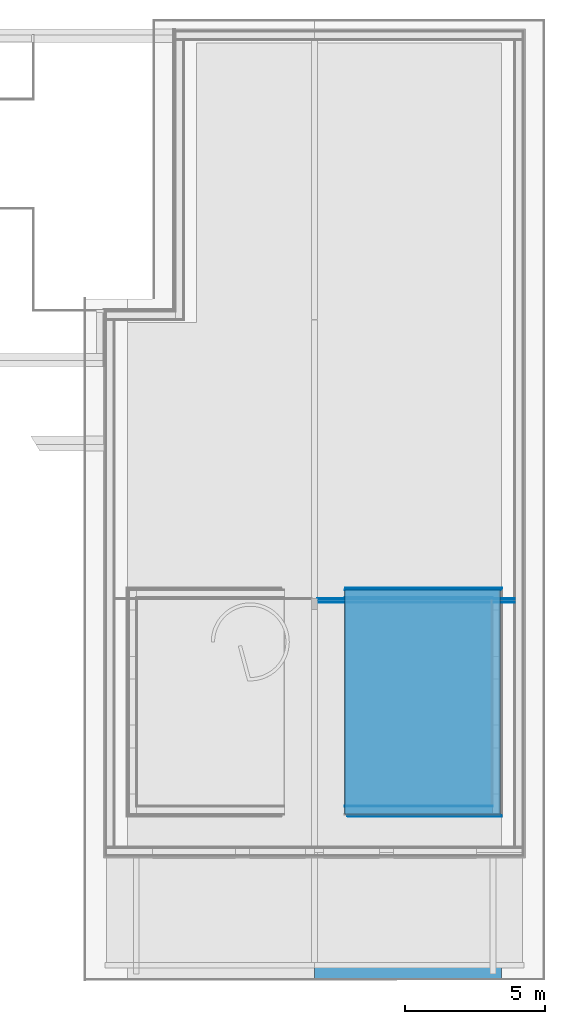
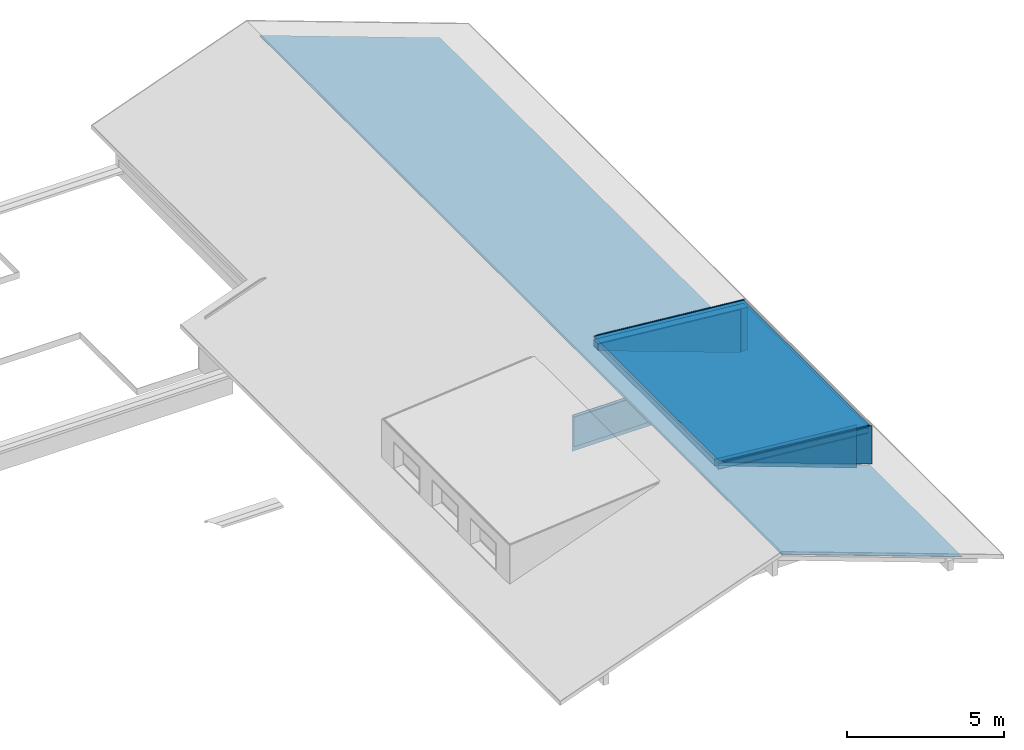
# One storey, part 8 of 12: 27 building element parts, 8 elements without a shape of their own.
"""IFC4 building model written with IfcOpenShell, lengths in millimetres."""

from ifc_helpers import new_model, entity, si_unit, converted_unit, derived_unit, direction, frame, origin_with_axes, place, context, subcontext, project, spatial, polygons, material, type_object, element, aggregate, save


model = new_model("IFC4")

# Units and contexts
model_context = context("Model", 3, precision=0.01, world=origin_with_axes(), true_north=direction((0.0, 1.0)))
body_context = subcontext(model_context, "Body", "Model", "MODEL_VIEW")
ifc_project = project(units=[si_unit("LENGTHUNIT", "METRE", prefix="MILLI"), si_unit("AREAUNIT", "SQUARE_METRE"), si_unit("VOLUMEUNIT", "CUBIC_METRE"), converted_unit("PLANEANGLEUNIT", "DEGREE", entity("IfcPlaneAngleMeasure", 0.0174532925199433), si_unit("PLANEANGLEUNIT", "RADIAN"), dimensions=[0, 0, 0, 0, 0, 0, 0]), converted_unit("TIMEUNIT", "Year", entity("IfcTimeMeasure", 31557600.0), si_unit("TIMEUNIT", "SECOND"), dimensions=[0, 0, 1, 0, 0, 0, 0]), si_unit("MASSUNIT", "GRAM", prefix="KILO"), si_unit("THERMODYNAMICTEMPERATUREUNIT", "DEGREE_CELSIUS"), si_unit("LUMINOUSINTENSITYUNIT", "LUMEN"), si_unit("ENERGYUNIT", "JOULE", prefix="MEGA"), derived_unit("THERMALCONDUCTANCEUNIT", [(si_unit("POWERUNIT", "WATT"), 1), (si_unit("LENGTHUNIT", "METRE"), -1), (si_unit("THERMODYNAMICTEMPERATUREUNIT", "KELVIN"), -1)]), derived_unit("SPECIFICHEATCAPACITYUNIT", [(si_unit("ENERGYUNIT", "JOULE"), 1), (si_unit("MASSUNIT", "GRAM", prefix="KILO"), -1), (si_unit("THERMODYNAMICTEMPERATUREUNIT", "KELVIN"), -1)]), derived_unit("MASSDENSITYUNIT", [(si_unit("MASSUNIT", "GRAM", prefix="KILO"), 1), (si_unit("VOLUMEUNIT", "CUBIC_METRE"), -1)])], contexts=[model_context])

# Site, building, storey
site_placement = place(None, origin_with_axes())
site = spatial("IfcSite", under=ifc_project, at=site_placement, Name="Gelände", CompositionType="ELEMENT")
building_placement = place(site_placement, origin_with_axes())
building = spatial("IfcBuilding", under=site, at=building_placement, Name="Gebäude", CompositionType="ELEMENT")
storey_placement = place(building_placement, frame((0.0, 0.0, 11600.0), z_axis=(0.0, 0.0, 1.0), x_axis=(1.0, 0.0, 0.0)))
storey = spatial("IfcBuildingStorey", under=building, at=storey_placement, Name="Dachaufsicht", CompositionType="ELEMENT", Elevation=11600.0)

# Wall, building element parts
wall_type_1 = type_object("IfcWallType", Name="Aussenwand Typ 01 318", PredefinedType="NOTDEFINED")
wall_1_placement = place(storey_placement, frame((32049.99744408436, 9989.670112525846, 1895.271674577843), z_axis=(0.0, 0.0, 1.0), x_axis=(-1.0, 0.0, 0.0)))
wall_1 = element("IfcWall", 1, at=wall_1_placement, inside=storey, type_object=wall_type_1, Name="Wand-014", PredefinedType="NOTDEFINED")
ifc_material_1 = material(Name="Ständer Konstruktion gedämmt")
building_element_part_1_placement = place(wall_1_placement, origin_with_axes())
building_element_part_1 = element("IfcBuildingElementPart", 2, at=building_element_part_1_placement, material=ifc_material_1, Name="Ständer Konstruktion gedämmt", PredefinedType="NOTDEFINED", context=body_context, shape_type="Tessellation", body=[
    polygons([(5527.237092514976, -278.0000000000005, 2179.750882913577), (5527.237092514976, -278.0000000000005, 2177.40811511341), (277.9999999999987, -278.0000000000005, 1683.979828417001), (277.9999999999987, -278.0000000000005, 0.0), (5549.900825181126, -278.0000000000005, 1918.81497836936), (5549.900825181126, -278.0000000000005, 2179.750882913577), (5527.237092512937, -18.00000000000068, 2179.750882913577), (5527.237092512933, -18.00000000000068, 2177.408115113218), (277.9999999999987, -18.00000000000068, 1683.979828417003), (277.9999999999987, -18.00000000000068, 0.0), (5549.900825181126, -18.00000000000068, 1918.81497836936), (5549.900825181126, -18.00000000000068, 2179.750882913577)], [[[1, 2, 3, 4, 5, 6]], [[2, 1, 7, 8]], [[9, 3, 2, 8]], [[3, 9, 10, 4]], [[5, 4, 10, 11]], [[12, 6, 5, 11]], [[7, 1, 6, 12]], [[8, 7, 12, 11, 10, 9]]], closed=True),
])
ifc_material_2 = material(Name="Gipsfaserplatte GFP")
building_element_part_2_placement = place(wall_1_placement, origin_with_axes())
building_element_part_2 = element("IfcBuildingElementPart", 3, at=building_element_part_2_placement, material=ifc_material_2, Name="Gipsfaserplatte GFP", PredefinedType="NOTDEFINED", context=body_context, shape_type="Tessellation", body=[
    polygons([(5527.237092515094, -293.000000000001, 2179.750882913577), (5527.237092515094, -292.9999999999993, 2177.408115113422), (277.9999999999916, -292.9999999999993, 1683.979828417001), (292.9999999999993, -292.9999999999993, 1683.979828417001), (292.9999999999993, -292.9999999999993, 5.45955351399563), (5549.900825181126, -293.000000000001, 1918.81497836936), (5549.900825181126, -293.000000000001, 2179.750882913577), (5527.237092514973, -278.0000000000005, 2179.750882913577), (5527.237092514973, -278.0000000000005, 2177.40811511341), (277.9999999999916, -278.0000000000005, 1683.979828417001), (292.9999999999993, -278.0000000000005, 1683.979828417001), (292.9999999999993, -278.0000000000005, 5.45955351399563), (5549.900825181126, -278.0000000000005, 1918.81497836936), (5549.900825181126, -278.0000000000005, 2179.750882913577)], [[[1, 2, 3, 4, 5, 6, 7]], [[2, 1, 8, 9]], [[10, 3, 2, 9]], [[3, 10, 11, 4]], [[4, 11, 12, 5]], [[6, 5, 12, 13]], [[14, 7, 6, 13]], [[8, 1, 7, 14]], [[9, 8, 14, 13, 12, 11, 10]]], closed=True),
])
building_element_part_3_placement = place(wall_1_placement, origin_with_axes())
building_element_part_3 = element("IfcBuildingElementPart", 4, at=building_element_part_3_placement, material=ifc_material_2, Name="Gipsfaserplatte GFP", PredefinedType="NOTDEFINED", context=body_context, shape_type="Tessellation", body=[
    polygons([(5527.237092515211, -307.9999999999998, 2179.750882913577), (5527.237092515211, -307.9999999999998, 2177.408115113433), (277.9999999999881, -307.9999999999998, 1683.979828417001), (307.9999999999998, -307.9999999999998, 1683.979828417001), (307.9999999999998, -307.9999999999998, 10.91910702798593), (5549.900825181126, -307.9999999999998, 1918.81497836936), (5549.900825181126, -307.9999999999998, 2179.750882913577), (5527.237092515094, -293.000000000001, 2179.750882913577), (5527.23709251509, -292.9999999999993, 2177.408115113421), (277.9999999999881, -292.9999999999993, 1683.979828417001), (307.9999999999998, -292.9999999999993, 1683.979828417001), (307.9999999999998, -292.9999999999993, 10.91910702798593), (5549.900825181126, -293.000000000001, 1918.81497836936), (5549.900825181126, -293.000000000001, 2179.750882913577)], [[[1, 2, 3, 4, 5, 6, 7]], [[2, 1, 8, 9]], [[10, 3, 2, 9]], [[3, 10, 11, 4]], [[4, 11, 12, 5]], [[6, 5, 12, 13]], [[14, 7, 6, 13]], [[8, 1, 7, 14]], [[9, 8, 14, 13, 12, 11, 10]]], closed=True),
])
ifc_material_3 = material(Name="Verputz Innen")
building_element_part_4_placement = place(wall_1_placement, origin_with_axes())
building_element_part_4 = element("IfcBuildingElementPart", 5, at=building_element_part_4_placement, material=ifc_material_3, Name="Verputz Innen", PredefinedType="NOTDEFINED", context=body_context, shape_type="Tessellation", body=[
    polygons([(5527.237092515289, -317.9999999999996, 2179.750882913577), (5527.237092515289, -317.9999999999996, 2177.408115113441), (278.0000000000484, -317.9999999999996, 1683.979828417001), (318.0000000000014, -317.9999999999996, 1683.979828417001), (318.0000000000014, -317.9999999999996, 14.55880937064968), (5549.900825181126, -317.9999999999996, 1918.81497836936), (5549.900825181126, -317.9999999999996, 2179.750882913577), (5527.237092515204, -307.9999999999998, 2179.750882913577), (5527.237092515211, -307.9999999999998, 2177.408115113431), (278.0000000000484, -307.9999999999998, 1683.979828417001), (318.0000000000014, -307.9999999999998, 1683.979828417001), (318.0000000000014, -307.9999999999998, 14.55880937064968), (5549.900825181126, -307.9999999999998, 1918.81497836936), (5549.900825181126, -307.9999999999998, 2179.750882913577)], [[[1, 2, 3, 4, 5, 6, 7]], [[2, 1, 8, 9]], [[10, 3, 2, 9]], [[3, 10, 11, 4]], [[4, 11, 12, 5]], [[6, 5, 12, 13]], [[14, 7, 6, 13]], [[8, 1, 7, 14]], [[9, 8, 14, 13, 12, 11, 10]]], closed=True),
])
aggregate(wall_1, [building_element_part_1, building_element_part_2, building_element_part_3, building_element_part_4])

# Covering, building element parts
covering_type = type_object("IfcCoveringType", Name="Dacheindeckung Typ 03 - Steildach 100", PredefinedType="NOTDEFINED")
covering_1_placement = place(storey_placement, frame((32031.99744402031, 12055.67011252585, 3554.811502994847), z_axis=(0.0, 0.0, 1.0), x_axis=(0.0, 1.0, 0.0)))
covering_1 = element("IfcCovering", 6, at=covering_1_placement, inside=storey, type_object=covering_type, Name="Dach-011", PredefinedType="NOTDEFINED")
ifc_material_4 = material(Name="Dachziegel grau")
building_element_part_5_placement = place(covering_1_placement, origin_with_axes())
building_element_part_5 = element("IfcBuildingElementPart", 7, at=building_element_part_5_placement, material=ifc_material_4, Name="Dachziegel grau", PredefinedType="NOTDEFINED", context=body_context, shape_type="Tessellation", body=[
    polygons([(5941.999999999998, -18.00000000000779, 98.74882835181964), (5941.999999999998, 5509.237092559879, 618.3091150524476), (-2066.000000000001, 5509.237092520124, 618.30911504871), (-2066.000000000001, -18.00000000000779, 98.74882835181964), (5942.000000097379, -18.00000002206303, 73.63862126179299), (5942.000000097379, 5509.237092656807, 593.1989079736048), (-2065.999999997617, 5509.23709262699, 593.1989079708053), (-2065.999999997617, -18.00000002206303, 73.63862126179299)], [[[1, 2, 3, 4]], [[1, 5, 6, 2]], [[2, 6, 7, 3]], [[3, 7, 8, 4]], [[4, 8, 5, 1]], [[5, 8, 7, 6]]], closed=True),
])
ifc_material_5 = material(Name="Aufdachdämmung")
building_element_part_6_placement = place(covering_1_placement, origin_with_axes())
building_element_part_6 = element("IfcBuildingElementPart", 8, at=building_element_part_6_placement, material=ifc_material_5, Name="Aufdachdämmung", PredefinedType="NOTDEFINED", context=body_context, shape_type="Tessellation", body=[
    polygons([(-2065.999999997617, -18.00000002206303, 73.63862126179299), (-2065.999999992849, -18.00000006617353, 23.41820708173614), (5942.000000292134, -18.00000006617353, 23.41820708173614), (5942.000000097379, -18.00000002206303, 73.63862126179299), (-2065.999999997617, 5509.23709262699, 593.1989079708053), (-2065.999999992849, 5509.237092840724, 542.9784938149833), (5942.000000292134, 5509.237092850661, 542.9784938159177), (5942.000000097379, 5509.237092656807, 593.1989079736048)], [[[1, 2, 3, 4]], [[5, 6, 2, 1]], [[3, 2, 6, 7]], [[4, 3, 7, 8]], [[4, 8, 5, 1]], [[8, 7, 6, 5]]], closed=True),
])
ifc_material_6 = material(Name="Lattenrost vertikal")
building_element_part_7_placement = place(covering_1_placement, origin_with_axes())
building_element_part_7 = element("IfcBuildingElementPart", 9, at=building_element_part_7_placement, material=ifc_material_6, Name="Lattenrost vertikal", PredefinedType="NOTDEFINED", context=body_context, shape_type="Tessellation", body=[
    polygons([(-2065.999999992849, -18.00000006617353, 23.41820708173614), (-2065.999999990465, -18.00000008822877, -1.691999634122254), (5942.000000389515, -18.00000008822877, -1.691999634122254), (5942.000000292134, -18.00000006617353, 23.41820708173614), (-2065.999999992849, 5509.237092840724, 542.9784938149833), (-2065.999999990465, 5509.23709294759, 517.8682871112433), (5942.000000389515, 5509.23709294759, 517.8682871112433), (5942.000000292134, 5509.237092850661, 542.978493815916)], [[[1, 2, 3, 4]], [[5, 6, 2, 1]], [[2, 6, 7, 3]], [[4, 3, 7, 8]], [[4, 8, 5, 1]], [[8, 7, 6, 5]]], closed=True),
])
aggregate(covering_1, [building_element_part_5, building_element_part_6, building_element_part_7])

# Wall, building element parts
wall_type_2 = type_object("IfcWallType", Name="Innenwand Typ 01 154", PredefinedType="NOTDEFINED")
wall_2_placement = place(storey_placement, frame((25528.99744442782, 17689.67011252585, 243.9998960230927), z_axis=(0.0, 0.0, 1.0), x_axis=(1.0, 0.0, 0.0)))
wall_2 = element("IfcWall", 10, at=wall_2_placement, inside=storey, type_object=wall_type_2, Name="Wand-014", PredefinedType="NOTDEFINED")
ifc_material_7 = material(Name="Dreischichtplatte DSP")
building_element_part_8_placement = place(wall_2_placement, origin_with_axes())
building_element_part_8 = element("IfcBuildingElementPart", 11, at=building_element_part_8_placement, material=ifc_material_7, Name="Dreischichtplatte DSP", PredefinedType="NOTDEFINED", context=body_context, shape_type="Tessellation", body=[
    polygons([(0.0, 0.0, 1404.411615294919), (0.0, -27.00000000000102, 1404.411615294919), (7020.999999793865, -27.00000000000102, 1404.411615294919), (7020.999999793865, 0.0, 1404.411615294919), (0.0, 0.0, 0.0), (0.0, -27.00000000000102, 0.0), (7020.999999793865, -27.00000000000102, 0.0), (7020.999999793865, 0.0, 0.0)], [[[1, 2, 3, 4]], [[5, 6, 2, 1]], [[2, 6, 7, 3]], [[8, 4, 3, 7]], [[5, 1, 4, 8]], [[6, 5, 8, 7]]], closed=True),
])
building_element_part_9_placement = place(wall_2_placement, origin_with_axes())
building_element_part_9 = element("IfcBuildingElementPart", 12, at=building_element_part_9_placement, material=ifc_material_1, Name="Ständer Konstruktion gedämmt", PredefinedType="NOTDEFINED", context=body_context, shape_type="Tessellation", body=[
    polygons([(7020.999999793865, -126.9999999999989, 1404.411615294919), (7020.999999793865, -126.9999999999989, 256.0000000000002), (7020.999999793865, -27.00000000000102, 256.0000000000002), (7020.999999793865, -27.00000000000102, 1404.411615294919), (0.0, -126.9999999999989, 1404.411615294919), (0.0, -126.9999999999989, 256.0000000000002), (0.0, -27.00000000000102, 256.0000000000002), (0.0, -27.00000000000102, 1404.411615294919)], [[[1, 2, 3, 4]], [[5, 6, 2, 1]], [[6, 7, 3, 2]], [[4, 3, 7, 8]], [[8, 5, 1, 4]], [[8, 7, 6, 5]]], closed=True),
])
building_element_part_10_placement = place(wall_2_placement, origin_with_axes())
building_element_part_10 = element("IfcBuildingElementPart", 13, at=building_element_part_10_placement, material=ifc_material_7, Name="Dreischichtplatte DSP", PredefinedType="NOTDEFINED", context=body_context, shape_type="Tessellation", body=[
    polygons([(7020.999999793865, -153.9999999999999, 1404.411615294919), (7020.999999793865, -153.9999999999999, 256.0000000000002), (7020.999999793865, -126.9999999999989, 256.0000000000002), (7020.999999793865, -126.9999999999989, 1404.411615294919), (0.0, -153.9999999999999, 1404.411615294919), (0.0, -153.9999999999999, 256.0000000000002), (0.0, -126.9999999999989, 256.0000000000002), (0.0, -126.9999999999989, 1404.411615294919)], [[[1, 2, 3, 4]], [[5, 6, 2, 1]], [[6, 7, 3, 2]], [[4, 3, 7, 8]], [[8, 5, 1, 4]], [[8, 7, 6, 5]]], closed=True),
])
aggregate(wall_2, [building_element_part_8, building_element_part_9, building_element_part_10])

# Roof, building element parts
roof_type = type_object("IfcRoofType", Name="Steildach Typ 01 255", PredefinedType="NOTDEFINED")
roof_placement = place(storey_placement, frame((32031.99744353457, 12055.6701158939, 3308.732717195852), z_axis=(0.0, 0.0, 1.0), x_axis=(0.0, 1.0, 0.0)))
roof = element("IfcRoof", 14, at=roof_placement, inside=storey, type_object=roof_type, Name="Dach-011", PredefinedType="NOTDEFINED")
ifc_material_8 = material(Name="Balken Konstruktion gedämmt")
building_element_part_11_placement = place(roof_placement, origin_with_axes())
building_element_part_11 = element("IfcBuildingElementPart", 15, at=building_element_part_11_placement, material=ifc_material_8, Name="Balken Konstruktion gedämmt", PredefinedType="NOTDEFINED", context=body_context, shape_type="Tessellation", body=[
    polygons([(-2048.000003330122, 1.611510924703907e-08, 225.9918637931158), (-2048.000003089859, 1.181987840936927e-07, 35.15428993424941), (5923.999996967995, 1.181987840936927e-07, 35.15428993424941), (5923.999996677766, 1.611510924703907e-08, 225.9918637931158), (-2048.000003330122, 5534.146930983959, 746.2016753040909), (-2048.000003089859, 5534.146931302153, 555.3641014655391), (5923.999996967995, 5534.146931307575, 555.364101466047), (5923.999996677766, 5534.146931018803, 746.2016753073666)], [[[1, 2, 3, 4]], [[5, 6, 2, 1]], [[3, 2, 6, 7]], [[4, 3, 7, 8]], [[4, 8, 5, 1]], [[8, 7, 6, 5]]], closed=True),
])
ifc_material_9 = material(Name="Dreischichtplatte-DSP")
building_element_part_12_placement = place(roof_placement, origin_with_axes())
building_element_part_12 = element("IfcBuildingElementPart", 16, at=building_element_part_12_placement, material=ifc_material_9, Name="Dreischichtplatte-DSP", PredefinedType="NOTDEFINED", context=body_context, shape_type="Tessellation", body=[
    polygons([(5923.99999663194, 0.0, 256.1241116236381), (5923.99999663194, 5534.146930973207, 776.3339231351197), (-2048.000003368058, 5534.146930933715, 776.333923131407), (-2048.000003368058, 0.0, 256.1241116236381), (5923.999996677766, 1.611510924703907e-08, 225.9918637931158), (5923.999996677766, 5534.146931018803, 746.2016753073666), (-2048.000003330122, 5534.146930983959, 746.2016753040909), (-2048.000003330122, 1.611510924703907e-08, 225.9918637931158)], [[[1, 2, 3, 4]], [[1, 5, 6, 2]], [[2, 6, 7, 3]], [[3, 7, 8, 4]], [[4, 8, 5, 1]], [[5, 8, 7, 6]]], closed=True),
])
ifc_material_10 = material(Name="Gipskartonplatte GKP")
building_element_part_13_placement = place(roof_placement, origin_with_axes())
building_element_part_13 = element("IfcBuildingElementPart", 17, at=building_element_part_13_placement, material=ifc_material_10, Name="Gipskartonplatte GKP", PredefinedType="NOTDEFINED", context=body_context, shape_type="Tessellation", body=[
    polygons([(-2048.000003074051, 1.249205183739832e-07, 22.59918639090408), (-2048.000003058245, 1.316351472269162e-07, 10.04408284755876), (5923.999997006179, 1.316351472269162e-07, 10.04408284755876), (5923.999996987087, 1.249205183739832e-07, 22.59918639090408), (-2048.000003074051, 5534.146931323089, 542.8089979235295), (-2048.000003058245, 5534.146931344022, 530.25389438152), (5923.999997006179, 5534.146931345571, 530.2538943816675), (5923.999996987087, 5534.146931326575, 542.8089979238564)], [[[1, 2, 3, 4]], [[5, 6, 2, 1]], [[3, 2, 6, 7]], [[4, 3, 7, 8]], [[4, 8, 5, 1]], [[8, 7, 6, 5]]], closed=True),
])
building_element_part_14_placement = place(roof_placement, origin_with_axes())
building_element_part_14 = element("IfcBuildingElementPart", 18, at=building_element_part_14_placement, material=ifc_material_10, Name="Gipskartonplatte GKP", PredefinedType="NOTDEFINED", context=body_context, shape_type="Tessellation", body=[
    polygons([(-2048.000003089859, 1.181987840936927e-07, 35.15428993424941), (-2048.000003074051, 1.249134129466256e-07, 22.59918639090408), (5923.999996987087, 1.249134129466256e-07, 22.59918639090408), (5923.999996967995, 1.181987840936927e-07, 35.15428993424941), (-2048.000003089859, 5534.146931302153, 555.3641014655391), (-2048.000003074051, 5534.146931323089, 542.8089979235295), (5923.999996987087, 5534.146931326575, 542.8089979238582), (5923.999996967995, 5534.146931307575, 555.364101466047)], [[[1, 2, 3, 4]], [[5, 6, 2, 1]], [[3, 2, 6, 7]], [[4, 3, 7, 8]], [[4, 8, 5, 1]], [[8, 7, 6, 5]]], closed=True),
])
ifc_material_11 = material(Name="Kalkzementputz Aussen")
building_element_part_15_placement = place(roof_placement, origin_with_axes())
building_element_part_15 = element("IfcBuildingElementPart", 19, at=building_element_part_15_placement, material=ifc_material_11, Name="Kalkzementputz Aussen", PredefinedType="NOTDEFINED", context=body_context, shape_type="Tessellation", body=[
    polygons([(-2048.000003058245, 1.316351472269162e-07, 10.04408284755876), (-2048.000003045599, 1.370068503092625e-07, 3.8705216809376e-07), (5923.999997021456, 1.370068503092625e-07, 3.8705216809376e-07), (5923.999997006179, 1.316351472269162e-07, 10.04408284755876), (-2048.000003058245, 5534.146931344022, 530.25389438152), (-2048.000003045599, 5534.146931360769, 520.2098119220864), (5923.999997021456, 5534.146931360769, 520.2098119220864), (5923.999997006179, 5534.146931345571, 530.2538943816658)], [[[1, 2, 3, 4]], [[5, 6, 2, 1]], [[2, 6, 7, 3]], [[4, 3, 7, 8]], [[4, 8, 5, 1]], [[8, 7, 6, 5]]], closed=True),
])
aggregate(roof, [building_element_part_11, building_element_part_12, building_element_part_13, building_element_part_14, building_element_part_15])

# Wall, building element parts
wall_3_placement = place(storey_placement, frame((32049.99744408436, 17997.67011262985, 1895.271674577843), z_axis=(0.0, 0.0, 1.0), x_axis=(-1.0, 0.0, 0.0)))
wall_3 = element("IfcWall", 20, at=wall_3_placement, inside=storey, type_object=wall_type_1, Name="Wand-014", PredefinedType="NOTDEFINED")
building_element_part_16_placement = place(wall_3_placement, origin_with_axes())
building_element_part_16 = element("IfcBuildingElementPart", 21, at=building_element_part_16_placement, material=ifc_material_3, Name="Verputz Innen", PredefinedType="NOTDEFINED", context=body_context, shape_type="Tessellation", body=[
    polygons([(5527.237093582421, 307.9999999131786, 2179.750882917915), (5527.237093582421, 307.9999999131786, 2177.408115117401), (278.000001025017, 307.9999999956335, 1683.979828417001), (308.0000000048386, 307.999999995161, 1683.979828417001), (308.0000000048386, 307.999999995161, 10.91910665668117), (5549.90082620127, 307.9999999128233, 1918.814978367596), (5549.90082620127, 307.9999999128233, 2179.750882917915), (5527.237093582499, 317.9999999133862, 2179.750882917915), (5527.237093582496, 317.9999999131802, 2177.408115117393), (278.0000010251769, 318.000000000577, 1683.979828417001), (308.0000000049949, 317.9999999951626, 1683.979828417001), (308.0000000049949, 317.9999999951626, 10.91910665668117), (5549.900826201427, 317.9999999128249, 1918.814978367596), (5549.900826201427, 317.9999999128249, 2179.750882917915)], [[[1, 2, 3, 4, 5, 6, 7]], [[2, 1, 8, 9]], [[10, 3, 2, 9]], [[3, 10, 11, 4]], [[4, 11, 12, 5]], [[6, 5, 12, 13]], [[6, 13, 14, 7]], [[8, 1, 7, 14]], [[9, 8, 14, 13, 12, 11, 10]]], closed=True),
])
building_element_part_17_placement = place(wall_3_placement, origin_with_axes())
building_element_part_17 = element("IfcBuildingElementPart", 22, at=building_element_part_17_placement, material=ifc_material_2, Name="Gipsfaserplatte GFP", PredefinedType="NOTDEFINED", context=body_context, shape_type="Tessellation", body=[
    polygons([(5527.237093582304, 292.999999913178, 2179.750882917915), (5527.237093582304, 292.999999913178, 2177.408115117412), (278.0000010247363, 292.9999999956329, 1683.979828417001), (293.0000000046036, 292.9999999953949, 1683.979828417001), (293.0000000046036, 292.9999999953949, 5.459553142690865), (5549.900826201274, 292.9999999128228, 1918.814978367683), (5549.900826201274, 292.9999999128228, 2179.750882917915), (5527.237093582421, 307.9999999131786, 2179.750882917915), (5527.237093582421, 307.9999999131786, 2177.4081151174), (278.0000010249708, 307.9999999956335, 1683.979828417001), (293.0000000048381, 307.9999999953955, 1683.979828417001), (293.0000000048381, 307.9999999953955, 5.459553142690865), (5549.900826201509, 307.9999999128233, 1918.814978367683), (5549.900826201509, 307.9999999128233, 2179.750882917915)], [[[1, 2, 3, 4, 5, 6, 7]], [[2, 1, 8, 9]], [[10, 3, 2, 9]], [[3, 10, 11, 4]], [[4, 11, 12, 5]], [[6, 5, 12, 13]], [[6, 13, 14, 7]], [[8, 1, 7, 14]], [[9, 8, 14, 13, 12, 11, 10]]], closed=True),
])
building_element_part_18_placement = place(wall_3_placement, origin_with_axes())
building_element_part_18 = element("IfcBuildingElementPart", 23, at=building_element_part_18_placement, material=ifc_material_2, Name="Gipsfaserplatte GFP", PredefinedType="NOTDEFINED", context=body_context, shape_type="Tessellation", body=[
    polygons([(5527.237093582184, 277.9999999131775, 2179.750882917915), (5527.237093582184, 277.9999999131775, 2177.408115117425), (278.0000000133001, 277.9999999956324, 1683.979828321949), (278.000000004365, 277.9999999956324, 0.0), (5549.90082620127, 277.9999999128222, 1918.81497836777), (5549.90082620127, 277.9999999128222, 2179.750882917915), (5527.237093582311, 292.999999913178, 2179.750882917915), (5527.237093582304, 292.999999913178, 2177.408115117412), (278.0000000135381, 292.9999999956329, 1683.979828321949), (278.000000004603, 292.9999999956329, 0.0), (5549.900826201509, 292.9999999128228, 1918.81497836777), (5549.900826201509, 292.9999999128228, 2179.750882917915)], [[[1, 2, 3, 4, 5, 6]], [[2, 1, 7, 8]], [[9, 3, 2, 8]], [[3, 9, 10, 4]], [[5, 4, 10, 11]], [[5, 11, 12, 6]], [[7, 1, 6, 12]], [[8, 7, 12, 11, 10, 9]]], closed=True),
])
building_element_part_19_placement = place(wall_3_placement, origin_with_axes())
building_element_part_19 = element("IfcBuildingElementPart", 24, at=building_element_part_19_placement, material=ifc_material_1, Name="Ständer Konstruktion gedämmt", PredefinedType="NOTDEFINED", context=body_context, shape_type="Tessellation", body=[
    polygons([(5527.237093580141, 17.99999991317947, 2179.750882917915), (5527.237093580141, 17.99999991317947, 2177.408115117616), (18.0000000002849, 17.99999999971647, 1659.53982832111), (18.0000000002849, 17.99999999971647, 0.0), (278.0000010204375, 17.9999999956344, 0.0), (5549.90082620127, 17.99999991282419, 1918.814978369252), (5549.90082620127, 17.99999991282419, 2179.750882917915), (5527.237093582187, 277.9999999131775, 2179.750882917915), (5527.237093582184, 277.9999999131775, 2177.408115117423), (18.00000000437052, 277.9999999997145, 1659.539828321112), (18.00000000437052, 277.9999999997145, 0.0), (278.0000010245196, 277.9999999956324, 0.0), (5549.900826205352, 277.9999999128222, 1918.814978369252), (5549.900826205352, 277.9999999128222, 2179.750882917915)], [[[1, 2, 3, 4, 5, 6, 7]], [[2, 1, 8, 9]], [[10, 3, 2, 9]], [[3, 10, 11, 4]], [[11, 12, 5, 4]], [[12, 13, 6, 5]], [[6, 13, 14, 7]], [[8, 1, 7, 14]], [[9, 8, 14, 13, 12, 11, 10]]], closed=True),
])
ifc_material_12 = material(Name="Grobspanplatte-OSB")
building_element_part_20_placement = place(wall_3_placement, origin_with_axes())
building_element_part_20 = element("IfcBuildingElementPart", 25, at=building_element_part_20_placement, material=ifc_material_12, Name="Grobspanplatte-OSB", PredefinedType="NOTDEFINED", context=body_context, shape_type="Tessellation", body=[
    polygons([(5527.237093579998, -8.682121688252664e-08, 2179.750882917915), (5527.237093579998, -8.682121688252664e-08, 2177.408115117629), (0.0, 0.0, 1657.84782832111), (0.0, 0.0, 0.0), (278.0000010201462, -4.366285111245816e-09, 0.0), (5549.90082620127, -8.717648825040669e-08, 1918.814978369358), (5549.90082620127, -8.717648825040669e-08, 2179.750882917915), (5527.237093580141, 17.99999991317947, 2179.750882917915), (5527.237093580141, 17.99999991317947, 2177.408115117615), (2.842170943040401e-10, 18.00000000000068, 1657.84782832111), (2.842170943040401e-10, 18.00000000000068, 0.0), (278.0000010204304, 17.9999999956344, 0.0), (5549.900826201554, 17.99999991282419, 1918.814978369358), (5549.900826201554, 17.99999991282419, 2179.750882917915)], [[[1, 2, 3, 4, 5, 6, 7]], [[2, 1, 8, 9]], [[10, 3, 2, 9]], [[3, 10, 11, 4]], [[11, 12, 5, 4]], [[6, 5, 12, 13]], [[14, 7, 6, 13]], [[8, 1, 7, 14]], [[9, 8, 14, 13, 12, 11, 10]]], closed=True),
])
aggregate(wall_3, [building_element_part_16, building_element_part_17, building_element_part_18, building_element_part_19, building_element_part_20])

# Curtain wall, building element parts
curtain_wall_type = type_object("IfcCurtainWallType", Name="Fassade Typ 02 - Vertikale Schalung 71", PredefinedType="NOTDEFINED")
curtain_wall_1_placement = place(storey_placement, frame((32120.99744408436, 18068.67011263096, 2143.030768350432), z_axis=(0.0, 0.0, 1.0), x_axis=(-1.0, 0.0, 0.0)))
curtain_wall_1 = element("IfcCurtainWall", 26, at=curtain_wall_1_placement, inside=storey, type_object=curtain_wall_type, Name="Wand-014", PredefinedType="NOTDEFINED")
building_element_part_21_placement = place(curtain_wall_1_placement, origin_with_axes())
building_element_part_21 = element("IfcBuildingElementPart", 27, at=building_element_part_21_placement, material=ifc_material_6, Name="Lattenrost vertikal", PredefinedType="NOTDEFINED", context=body_context, shape_type="Tessellation", body=[
    polygons([(5393.667159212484, 70.99999986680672, 2004.186275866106), (5598.237093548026, 70.99999991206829, 2004.186275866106), (5598.237093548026, 70.99999991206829, 2004.106404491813), (92.00000102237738, 70.99999999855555, 0.0), (46.00000000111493, 70.99999999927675, 0.0), (46.00000000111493, 70.99999868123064, 1501.505562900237), (5393.667159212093, 45.99999978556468, 2004.186275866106), (5598.237093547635, 45.99999991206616, 2004.186275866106), (5598.237093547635, 45.99999991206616, 2004.106404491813), (92.00000102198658, 45.99999999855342, 0.0), (46.00000000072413, 45.99999999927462, 0.0), (46.00000000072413, 45.99999647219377, 1501.505562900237)], [[[1, 2, 3, 4, 5, 6]], [[2, 1, 7, 8]], [[8, 9, 3, 2]], [[3, 9, 10, 4]], [[11, 5, 4, 10]], [[11, 12, 6, 5]], [[1, 6, 12, 7]], [[12, 11, 10, 9, 8, 7]]], closed=True),
])
ifc_material_13 = material(Name="Falzschalung vertikal")
building_element_part_22_placement = place(curtain_wall_1_placement, origin_with_axes())
building_element_part_22 = element("IfcBuildingElementPart", 28, at=building_element_part_22_placement, material=ifc_material_13, Name="Falzschalung vertikal", PredefinedType="NOTDEFINED", context=body_context, shape_type="Tessellation", body=[
    polygons([(5393.667159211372, -8.472156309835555e-08, 2004.186275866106), (5598.237093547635, -8.79332162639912e-08, 2004.186275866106), (5598.237093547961, 20.99999991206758, 2004.186275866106), (5393.667159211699, 20.99999997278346, 2004.186275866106), (0.0, 0.0, 1497.181562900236), (0.0, 0.0, 0.0), (92.00000102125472, -1.445954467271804e-09, 0.0), (5598.237093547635, -8.79332162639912e-08, 2004.106404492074), (5598.237093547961, 20.99999991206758, 2004.106404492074), (92.00000102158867, 20.99999999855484, 0.0), (3.339550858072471e-10, 21.0000000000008, 0.0), (3.339550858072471e-10, 21.00000117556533, 1497.181562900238)], [[[1, 2, 3, 4]], [[5, 6, 7, 8, 2, 1]], [[9, 3, 2, 8]], [[4, 3, 9, 10, 11, 12]], [[1, 4, 12, 5]], [[12, 11, 6, 5]], [[6, 11, 10, 7]], [[7, 10, 9, 8]]], closed=True),
])
ifc_material_14 = material(Name="Lattenrost horizontal")
building_element_part_23_placement = place(curtain_wall_1_placement, origin_with_axes())
building_element_part_23 = element("IfcBuildingElementPart", 29, at=building_element_part_23_placement, material=ifc_material_14, Name="Lattenrost horizontal", PredefinedType="NOTDEFINED", context=body_context, shape_type="Tessellation", body=[
    polygons([(21.00000000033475, 21.00000156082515, 1499.155562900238), (21.00000000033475, 20.99999999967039, 0.0), (92.00000102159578, 20.99999999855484, 0.0), (5598.237093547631, 20.99999991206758, 2004.106404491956), (5598.237093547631, 20.99999991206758, 2004.186275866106), (5393.667159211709, 20.99999997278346, 2004.186275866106), (21.00000000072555, 45.99999647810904, 1499.155562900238), (21.00000000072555, 45.99999999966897, 0.0), (92.00000102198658, 45.99999999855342, 0.0), (5598.237093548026, 45.99999991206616, 2004.106404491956), (5598.237093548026, 45.99999991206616, 2004.186275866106), (5393.667159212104, 45.99999978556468, 2004.186275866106)], [[[1, 2, 3, 4, 5, 6]], [[2, 1, 7, 8]], [[2, 8, 9, 3]], [[3, 9, 10, 4]], [[5, 4, 10, 11]], [[11, 12, 6, 5]], [[6, 12, 7, 1]], [[12, 11, 10, 9, 8, 7]]], closed=True),
])
aggregate(curtain_wall_1, [building_element_part_21, building_element_part_22, building_element_part_23])

curtain_wall_2_placement = place(storey_placement, frame((32120.99744408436, 9918.670112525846, 2143.030768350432), z_axis=(0.0, 0.0, 1.0), x_axis=(-1.0, 0.0, 0.0)))
curtain_wall_2 = element("IfcCurtainWall", 30, at=curtain_wall_2_placement, inside=storey, type_object=curtain_wall_type, Name="Wand-014", PredefinedType="NOTDEFINED")
building_element_part_24_placement = place(curtain_wall_2_placement, origin_with_axes())
building_element_part_24 = element("IfcBuildingElementPart", 31, at=building_element_part_24_placement, material=ifc_material_13, Name="Falzschalung vertikal", PredefinedType="NOTDEFINED", context=body_context, shape_type="Tessellation", body=[
    polygons([(5527.456537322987, -1.677236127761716e-08, 2004.186275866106), (5322.667158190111, -6.529710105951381e-08, 2004.186275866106), (5322.667158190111, -21.00000014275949, 2004.186275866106), (5527.456537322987, -21.00000003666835, 2004.186275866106), (21.0000000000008, 0.0, 0.0), (21.0000000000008, 0.0, 1505.829562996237), (21.0000000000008, -21.00000288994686, 1505.829562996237), (21.0000000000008, -21.0000000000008, 0.0)], [[[1, 2, 3, 4]], [[2, 1, 5, 6]], [[7, 3, 2, 6]], [[4, 3, 7, 8]], [[1, 4, 8, 5]], [[6, 5, 8, 7]]], closed=True),
])
building_element_part_25_placement = place(curtain_wall_2_placement, origin_with_axes())
building_element_part_25 = element("IfcBuildingElementPart", 32, at=building_element_part_25_placement, material=ifc_material_14, Name="Lattenrost horizontal", PredefinedType="NOTDEFINED", context=body_context, shape_type="Tessellation", body=[
    polygons([(5322.667158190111, -21.00000014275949, 2004.186275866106), (5527.456537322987, -21.00000003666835, 2004.186275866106), (45.99999999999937, -21.00000001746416, 9.099255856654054), (45.99999999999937, -21.00000289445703, 1508.179562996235), (5322.667158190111, -45.99999989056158, 2004.186275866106), (5527.456537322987, -45.9999999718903, 2004.186275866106), (45.99999999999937, -45.99999998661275, 9.099255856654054), (45.99999999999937, -45.99999778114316, 1508.179562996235)], [[[1, 2, 3, 4]], [[2, 1, 5, 6]], [[2, 6, 7, 3]], [[7, 8, 4, 3]], [[1, 4, 8, 5]], [[8, 7, 6, 5]]], closed=True),
])
building_element_part_26_placement = place(curtain_wall_2_placement, origin_with_axes())
building_element_part_26 = element("IfcBuildingElementPart", 33, at=building_element_part_26_placement, material=ifc_material_6, Name="Lattenrost vertikal", PredefinedType="NOTDEFINED", context=body_context, shape_type="Tessellation", body=[
    polygons([(5322.667158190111, -45.99999989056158, 2004.186275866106), (5527.456537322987, -45.9999999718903, 2004.186275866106), (70.99999999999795, -45.99999997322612, 18.19851171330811), (70.99999999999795, -45.99999777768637, 1510.529562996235), (5322.667158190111, -70.99999999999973, 2004.186275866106), (5527.456537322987, -70.99999999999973, 2004.186275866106), (70.99999999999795, -70.99999999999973, 18.19851171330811), (70.99999999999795, -70.99999999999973, 1510.529562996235)], [[[1, 2, 3, 4]], [[2, 1, 5, 6]], [[2, 6, 7, 3]], [[7, 8, 4, 3]], [[1, 4, 8, 5]], [[8, 7, 6, 5]]], closed=True),
])
aggregate(curtain_wall_2, [building_element_part_24, building_element_part_25, building_element_part_26])

# Covering, building element part
covering_2_placement = place(storey_placement, frame((32857.99744457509, 8136.597281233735, 1760.723553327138), z_axis=(0.0, 0.0, 1.0), x_axis=(0.0, 1.0, 0.0)))
covering_2 = element("IfcCovering", 34, at=covering_2_placement, inside=storey, type_object=covering_type, Name="Dach-011", PredefinedType="NOTDEFINED")
building_element_part_27_placement = place(covering_2_placement, origin_with_axes())
building_element_part_27 = element("IfcBuildingElementPart", 35, at=building_element_part_27_placement, material=ifc_material_6, Name="Lattenrost vertikal", PredefinedType="NOTDEFINED", context=body_context, shape_type="Tessellation", body=[
    polygons([(29322.00000009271, 769.7540980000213, 306.7720236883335), (29322.00000005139, 7429.000000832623, 2730.539314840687), (-4018.000000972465, 7429.000000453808, 2730.539314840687), (-4017.999999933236, 769.7540977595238, 306.7720236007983), (9861.072830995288, 808.0000006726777, 320.6923938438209), (1853.072831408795, 808.0000006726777, 320.6923938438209), (1853.072831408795, 6335.237093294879, 2332.442173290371), (9861.072830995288, 6335.23709330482, 2332.442173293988), (29321.99999992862, 769.754097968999, 280.1675797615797), (29321.99999990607, 7429.000000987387, 2703.934870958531), (-4018.000001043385, 7429.000000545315, 2703.934870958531), (-4018.000000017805, 769.7540978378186, 280.1675797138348), (9861.072830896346, 808.0000007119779, 294.0879499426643), (1853.072831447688, 808.0000007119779, 294.0879499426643), (1853.072831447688, 6335.237093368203, 2305.837729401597), (9861.072830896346, 6335.237093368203, 2305.837729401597)], [[[1, 2, 3, 4], [5, 6, 7, 8]], [[2, 1, 9, 10]], [[2, 10, 11, 3]], [[12, 4, 3, 11]], [[1, 4, 12, 9]], [[6, 5, 13, 14]], [[7, 6, 14, 15]], [[8, 7, 15, 16]], [[5, 8, 16, 13]], [[9, 12, 11, 10], [14, 13, 16, 15]]], closed=True),
])
aggregate(covering_2, [building_element_part_27])

save(model, "model.ifc")
